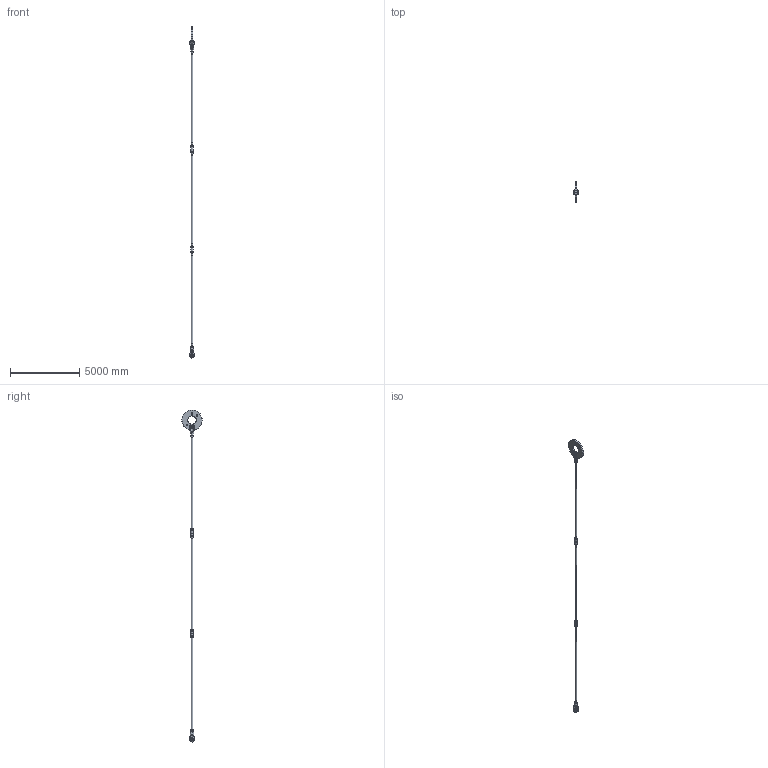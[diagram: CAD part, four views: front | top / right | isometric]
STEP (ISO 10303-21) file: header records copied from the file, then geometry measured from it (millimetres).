
FILE_DESCRIPTION(/* description */ (''),/* implementation_level */ '2;1');
FILE_NAME(/* name */ 'C:\Vault-WS\Anker\Werksnorm\Hochbau\ASDO-System\ASDO-S\für Kunden\3d\Step\M 120.stp',/* time_stamp */ '2014-06-12T09:56:18+02:00',/* author */ ('ritgen'),/* organization */ (''),/* preprocessor_version */ 'ST-DEVELOPER v15.2',/* originating_system */ 'Autodesk Inventor 2014',/* authorisation */ '');
FILE_SCHEMA (('AUTOMOTIVE_DESIGN { 1 0 10303 214 3 1 1 }'));
Length unit declared in the file: millimetre
Products named in the file (11): ASDO-005776; ASDO-014281; ASDO-014331; DIN 7991 - M20x50 - 8.8; ASDO-013950; ASDO-001741; ASDO-001371; ASDO-001470; ASDO-006504; ASDO-014078; ASDO-006503
Bounding box: 303.19 x 1458.61 x 23916 mm (x, y, z)
Volume: 464777690.6 mm3; surface area: 15976432.6 mm2
Topology: 24 solids, 24 shells, 507 faces, 1096 edges, 665 vertices
Faces by surface type: plane 156, bspline 144, cylinder 95, cone 60, torus 52
Full cylindrical faces by diameter (mm): 11 x18, 17.294 x4, 20 x4, 22.5 x4, 25 x4, 36 x4, 113.505 x12, 120 x5, 122 x7, 123 x8, 125 x7, 173 x6, 175 x4, 193.7 x2, 600 x1, 1460 x1
Entity records: 14164 total; most frequent: CARTESIAN_POINT 9806, ORIENTED_EDGE 778, DIRECTION 766, EDGE_CURVE 389, AXIS2_PLACEMENT_3D 361, EDGE_LOOP 346, VERTEX_POINT 279, ADVANCED_FACE 221
